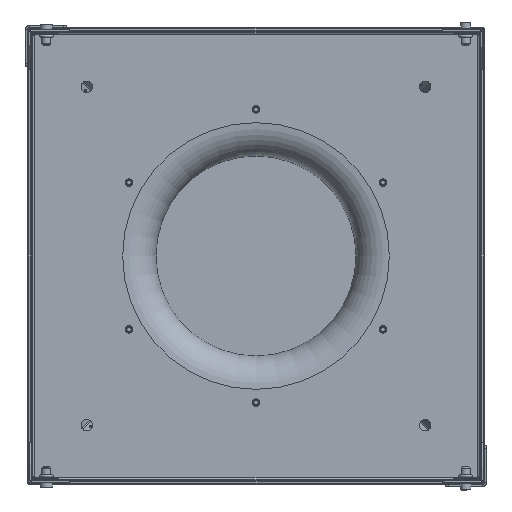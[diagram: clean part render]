
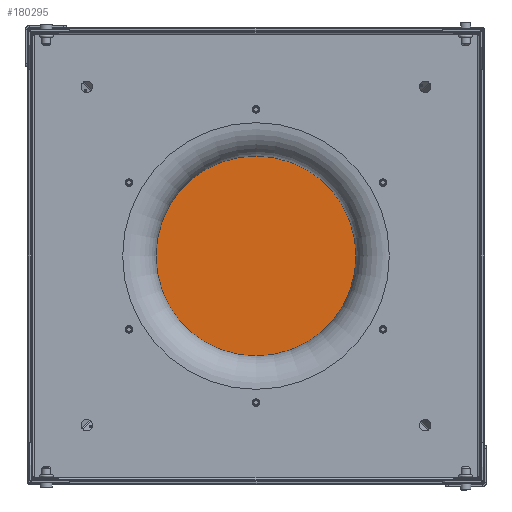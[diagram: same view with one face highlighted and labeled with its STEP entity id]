
A CAD part, front view. The second image highlights one B-rep face of the part: STEP entity #180295.
In plain terms, the highlighted planar face has unit normal (0, -1, 0).
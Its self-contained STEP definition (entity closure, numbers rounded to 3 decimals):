
#13754 = LINE ( 'NONE', #45420, #96444 ) ;
#16480 = CARTESIAN_POINT ( 'NONE',  ( 0., 455.468, 0. ) ) ;
#18877 = VECTOR ( 'NONE', #51165, 1000. ) ;
#36142 = DIRECTION ( 'NONE',  ( -1., 0., 0. ) ) ;
#38613 = AXIS2_PLACEMENT_3D ( 'NONE', #16480, #64584, #176271 ) ;
#40074 = CARTESIAN_POINT ( 'NONE',  ( 98.102, 455.468, -98.102 ) ) ;
#40952 = VERTEX_POINT ( 'NONE', #96211 ) ;
#45420 = CARTESIAN_POINT ( 'NONE',  ( 98.102, 455.468, 98.102 ) ) ;
#51165 = DIRECTION ( 'NONE',  ( 1., 0., 0. ) ) ;
#59184 = VECTOR ( 'NONE', #106112, 1000. ) ;
#64584 = DIRECTION ( 'NONE',  ( 0., 1., 0. ) ) ;
#66464 = ORIENTED_EDGE ( 'NONE', *, *, #67381, .F. ) ;
#67381 = EDGE_CURVE ( 'NONE', #136963, #40952, #186586, .T. ) ;
#78014 = VERTEX_POINT ( 'NONE', #40074 ) ;
#84091 = ORIENTED_EDGE ( 'NONE', *, *, #168560, .F. ) ;
#84824 = FACE_OUTER_BOUND ( 'NONE', #170635, .T. ) ;
#96211 = CARTESIAN_POINT ( 'NONE',  ( -98.102, 455.468, 98.102 ) ) ;
#96444 = VECTOR ( 'NONE', #108757, 1000. ) ;
#98108 = CARTESIAN_POINT ( 'NONE',  ( -98.102, 455.468, -98.102 ) ) ;
#106112 = DIRECTION ( 'NONE',  ( 0., 0., 1. ) ) ;
#108757 = DIRECTION ( 'NONE',  ( 0., 0., -1. ) ) ;
#116548 = VECTOR ( 'NONE', #36142, 1000. ) ;
#136963 = VERTEX_POINT ( 'NONE', #98108 ) ;
#145625 = EDGE_CURVE ( 'NONE', #152126, #78014, #13754, .T. ) ;
#151181 = LINE ( 'NONE', #162807, #18877 ) ;
#152126 = VERTEX_POINT ( 'NONE', #177530 ) ;
#160229 = PLANE ( 'NONE',  #38613 ) ;
#162531 = EDGE_CURVE ( 'NONE', #78014, #136963, #164042, .T. ) ;
#162807 = CARTESIAN_POINT ( 'NONE',  ( -98.102, 455.468, 98.102 ) ) ;
#164042 = LINE ( 'NONE', #195324, #116548 ) ;
#168560 = EDGE_CURVE ( 'NONE', #40952, #152126, #151181, .T. ) ;
#170635 = EDGE_LOOP ( 'NONE', ( #84091, #66464, #197409, #201856 ) ) ;
#176271 = DIRECTION ( 'NONE',  ( 0., 0., 1. ) ) ;
#177530 = CARTESIAN_POINT ( 'NONE',  ( 98.102, 455.468, 98.102 ) ) ;
#180295 = ADVANCED_FACE ( 'NONE', ( #84824 ), #160229, .F. ) ;
#185779 = CARTESIAN_POINT ( 'NONE',  ( -98.102, 455.468, -98.102 ) ) ;
#186586 = LINE ( 'NONE', #185779, #59184 ) ;
#195324 = CARTESIAN_POINT ( 'NONE',  ( 98.102, 455.468, -98.102 ) ) ;
#197409 = ORIENTED_EDGE ( 'NONE', *, *, #162531, .F. ) ;
#201856 = ORIENTED_EDGE ( 'NONE', *, *, #145625, .F. ) ;
